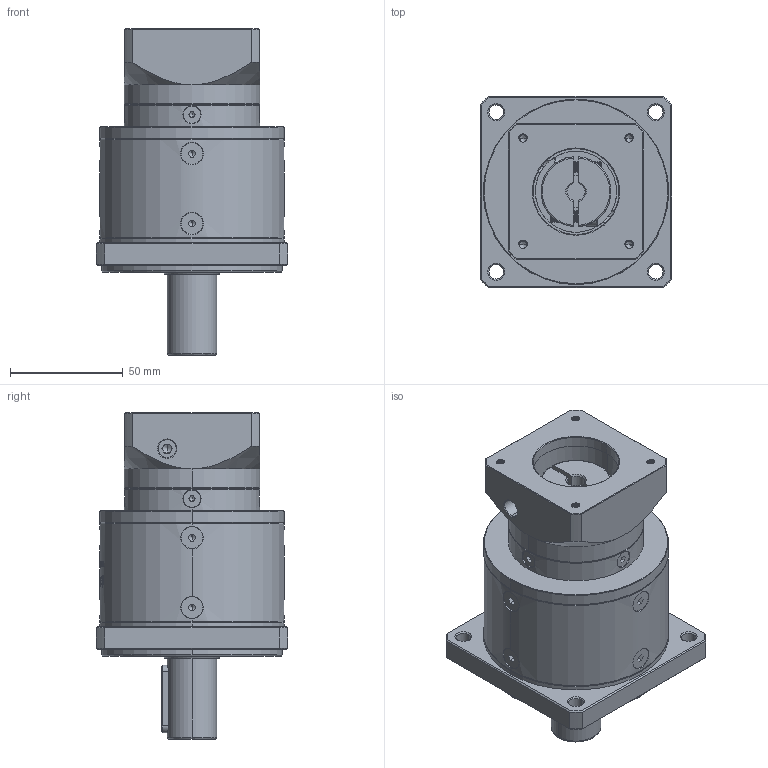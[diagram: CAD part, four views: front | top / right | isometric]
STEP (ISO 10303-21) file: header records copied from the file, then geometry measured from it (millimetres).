
FILE_DESCRIPTION (( 'STEP AP214' ), '1' );
FILE_NAME ('ZF80-D22-L2-8-38.1-47.14X47.14-M4.step', '2022-05-08T09:27:09', ( '' ), ( 'Microsoft' ), 'SwSTEP 2.0', 'SolidWorks 2016', '' );
FILE_SCHEMA (( 'AUTOMOTIVE_DESIGN' ));
Length unit declared in the file: millimetre
Products named in the file (1): ZF80-D22-L2-8-38.1-47.14X47.14-M4
Bounding box: 85 x 85 x 145 mm (x, y, z)
Volume: 476845 mm3; surface area: 67876.9 mm2
Topology: 18 solids, 18 shells, 2002 faces, 5233 edges, 3327 vertices
Faces by surface type: plane 948, cylinder 393, bspline 328, cone 319, torus 14
Entity records: 105424 total; most frequent: CARTESIAN_POINT 37600, ORIENTED_EDGE 10390, DIRECTION 8294, EDGE_CURVE 5195, VERTEX_POINT 3327, LINE 2802, VECTOR 2802, AXIS2_PLACEMENT_3D 2746
